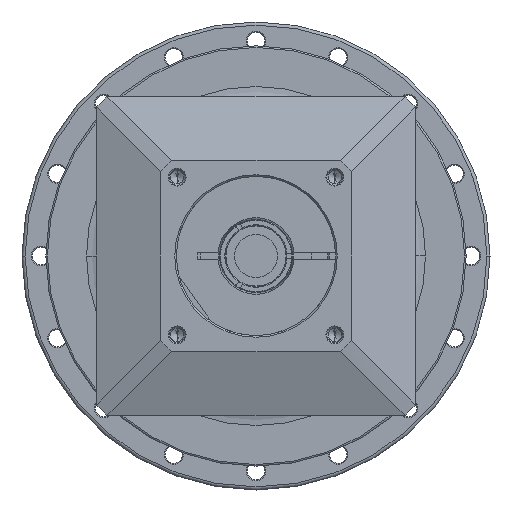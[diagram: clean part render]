
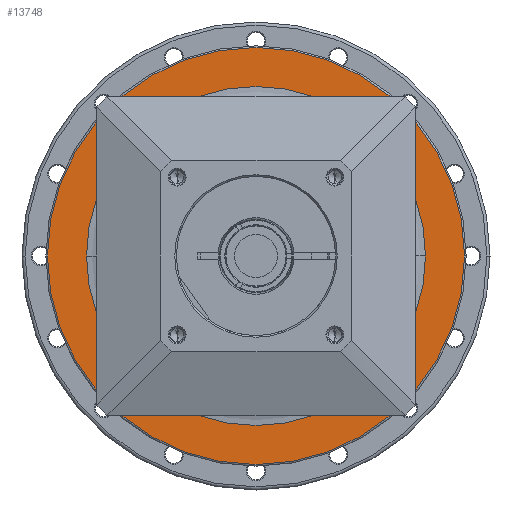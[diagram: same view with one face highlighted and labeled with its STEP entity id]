
A CAD part, left-side view. The second image highlights one B-rep face of the part: STEP entity #13748.
In plain terms, the highlighted planar face has unit normal (-1, 0, 0) as drawn and (1, 0, 0) by its records, which use the part's own axes.
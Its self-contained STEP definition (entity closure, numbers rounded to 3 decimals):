
#12779=CARTESIAN_POINT('',(-11.5,0.,0.));
#12780=DIRECTION('',(-1.,0.,0.));
#12781=DIRECTION('',(0.,-1.,0.));
#12782=AXIS2_PLACEMENT_3D('',#12779,#12780,#12781);
#12784=CARTESIAN_POINT('',(-11.5,0.,0.));
#12785=DIRECTION('',(-1.,0.,0.));
#12786=DIRECTION('',(0.,1.,0.));
#12787=AXIS2_PLACEMENT_3D('',#12784,#12785,#12786);
#12789=CARTESIAN_POINT('',(-11.5,0.,0.));
#12790=DIRECTION('',(-1.,0.,0.));
#12791=DIRECTION('',(0.,-1.,0.));
#12792=AXIS2_PLACEMENT_3D('',#12789,#12790,#12791);
#12794=CARTESIAN_POINT('',(-11.5,0.,0.));
#12795=DIRECTION('',(-1.,0.,0.));
#12796=DIRECTION('',(0.,1.,0.));
#12797=AXIS2_PLACEMENT_3D('',#12794,#12795,#12796);
#13041=CARTESIAN_POINT('',(-11.5,-65.5,0.));
#13042=CARTESIAN_POINT('',(-11.5,65.5,0.));
#13043=VERTEX_POINT('',#13041);
#13044=VERTEX_POINT('',#13042);
#13099=CARTESIAN_POINT('',(-11.5,-53.25,0.));
#13100=CARTESIAN_POINT('',(-11.5,53.25,0.));
#13101=VERTEX_POINT('',#13099);
#13102=VERTEX_POINT('',#13100);
#13733=CARTESIAN_POINT('',(-11.5,0.,0.));
#13734=DIRECTION('',(1.,0.,0.));
#13735=DIRECTION('',(0.,-1.,0.));
#13736=AXIS2_PLACEMENT_3D('',#13733,#13734,#13735);
#13737=PLANE('',#13736);
#13738=ORIENTED_EDGE('',*,*,#13689,.T.);
#13739=ORIENTED_EDGE('',*,*,#13674,.T.);
#13740=EDGE_LOOP('',(#13738,#13739));
#13741=FACE_OUTER_BOUND('',#13740,.F.);
#13743=ORIENTED_EDGE('',*,*,#13742,.F.);
#13745=ORIENTED_EDGE('',*,*,#13744,.F.);
#13746=EDGE_LOOP('',(#13743,#13745));
#13747=FACE_BOUND('',#13746,.F.);
#13748=ADVANCED_FACE('',(#13741,#13747),#13737,.T.);
#12783=CIRCLE('',#12782,53.25);
#12788=CIRCLE('',#12787,53.25);
#12793=CIRCLE('',#12792,65.5);
#12798=CIRCLE('',#12797,65.5);
#13674=EDGE_CURVE('',#13044,#13043,#12798,.T.);
#13689=EDGE_CURVE('',#13043,#13044,#12793,.T.);
#13742=EDGE_CURVE('',#13101,#13102,#12783,.T.);
#13744=EDGE_CURVE('',#13102,#13101,#12788,.T.);
